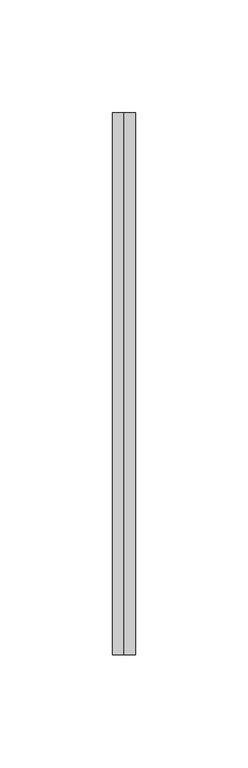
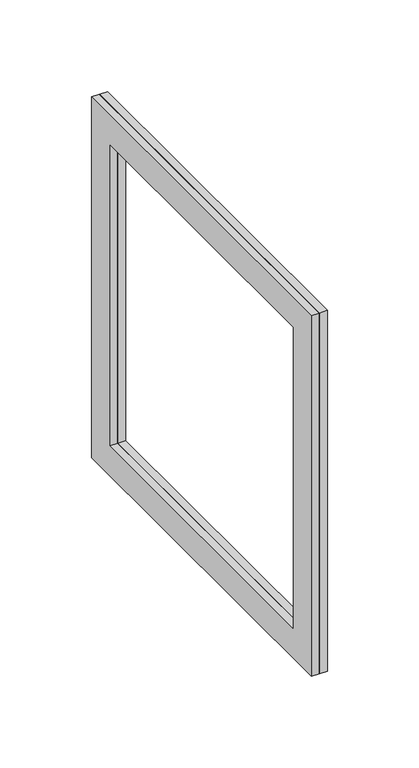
"""IFC4 building model written with IfcOpenShell, lengths in millimetres: duct fitting geometry, BL_ФланецВоздуховдов-Двойной_Прямоугольный_БезКоннекторов : BL_ФланецВоздуховдов-Двойной_Прямоугольный_БезКоннекторов."""

from ifc_helpers import new_model, si_unit, frame, origin, place, context, project, spatial, polyline, outline, extrude, source, transform, mapped, element, save


def duct_fitting_24f2fb5e(model_context):
    return source(origin(), model_context, "Body", "SweptSolid", [
        extrude(outline(polyline([(-165.6742229, 120.0), (74.3257771, 120.0), (74.3257771, -120.0), (-165.6742229, -120.0), (-165.6742229, 120.0)]), holes=[polyline([(-145.6742229, 100.0), (-145.6742229, -100.0), (54.3257771, -100.0), (54.3257771, 100.0), (-145.6742229, 100.0)])]), frame((0.0, 0.0, 0.0), z_axis=(1.0, 0.0, 0.0), x_axis=(0.0, 1.0, 0.0)), (0.0, 0.0, 1.0), 5.0),
        extrude(outline(polyline([(-165.6742229, 120.0), (74.3257771, 120.0), (74.3257771, -120.0), (-165.6742229, -120.0), (-165.6742229, 120.0)]), holes=[polyline([(54.3257771, 100.0), (-145.6742229, 100.0), (-145.6742229, -100.0), (54.3257771, -100.0), (54.3257771, 100.0)])]), frame((-5.0, 0.0, 0.0), z_axis=(1.0, 0.0, 0.0), x_axis=(0.0, 1.0, 0.0)), (0.0, 0.0, 1.0), 5.0),
    ])


if __name__ == "__main__":
    model = new_model("IFC4")
    model_context = context("Model", 3, world=origin())
    ifc_project = project(units=[si_unit("LENGTHUNIT", "METRE", prefix="MILLI")], contexts=[model_context])
    site = spatial("IfcSite", under=ifc_project)
    building = spatial("IfcBuilding", under=site)
    placement = place(None, origin())
    duct_fitting_shape = duct_fitting_24f2fb5e(model_context)
    element("IfcDuctFitting", 1, ObjectType="BL_ФланецВоздуховдов-Двойной_Прямоугольный_БезКоннекторов : BL_ФланецВоздуховдов-Двойной_Прямоугольный_БезКоннекторов", at=placement, inside=building, context=model_context, shape_type="MappedRepresentation", body=[
        mapped(duct_fitting_shape, transform((0.0, 0.0, 0.0), x_axis=(1.0, 0.0, 0.0), y_axis=(0.0, 1.0, 0.0), z_axis=(0.0, 0.0, 1.0))),
    ])
    save(model, "model.ifc")
